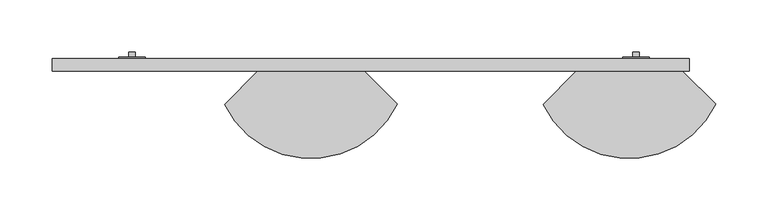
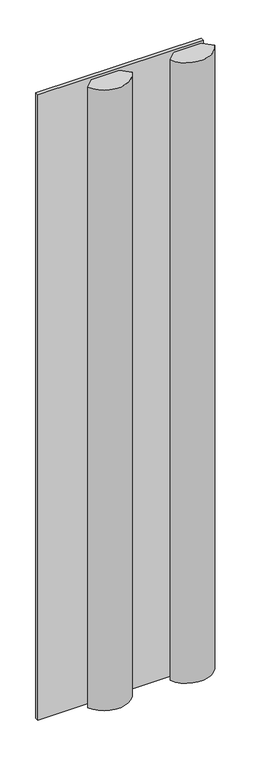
"""IFC4 building model written with IfcOpenShell, lengths in millimetres: proxy geometry, Arktura-SoundForm-Arc-RFA : Arktura-SoundForm-Arc-RFA."""

from ifc_helpers import new_model, si_unit, point, frame, frame_2d, origin, origin_with_axes, place, context, project, spatial, polyline, circle_curve, trimmed, segment, composite_curve, outline, extrude, source, transform, mapped, element, save


def generic_models_afdf253b(model_context):
    return source(origin(), model_context, "Body", "SweptSolid", [
        extrude(outline(polyline([(76.2, -31.75), (50.8, -31.75), (50.8, -30.3215536), (76.2, -30.3215536), (76.2, -31.75)])), frame((0.0, 0.0, 1206.5), z_axis=(0.0, 0.0, 1.0), x_axis=(1.0, 0.0, 0.0)), (0.0, 0.0, 1.0), 25.4),
        extrude(outline(composite_curve([segment(trimmed(circle_curve(frame_2d((1219.2, 63.5)), 3.175), [point((1219.2, 60.325))], [point((1219.2, 66.675))], False, "CARTESIAN"), True, "CONTINUOUS"), segment(trimmed(circle_curve(frame_2d((1219.2, 63.5)), 3.175), [point((1219.2, 66.675))], [point((1219.2, 60.325))], False, "CARTESIAN"), True, "CONTINUOUS")], self_intersect=False)), frame((0.0, -30.3215536, 0.0), z_axis=(0.0, 1.0, 0.0), x_axis=(0.0, 0.0, 1.0)), (0.0, 0.0, 1.0), 4.9215536),
        extrude(outline(polyline([(558.8, -31.75), (533.4, -31.75), (533.4, -30.3215536), (558.8, -30.3215536), (558.8, -31.75)])), frame((0.0, 0.0, 1206.5), z_axis=(0.0, 0.0, 1.0), x_axis=(1.0, 0.0, 0.0)), (0.0, 0.0, 1.0), 25.4),
        extrude(outline(composite_curve([segment(trimmed(circle_curve(frame_2d((1219.2, 546.1)), 3.175), [point((1219.2, 542.925))], [point((1219.2, 549.275))], False, "CARTESIAN"), True, "CONTINUOUS"), segment(trimmed(circle_curve(frame_2d((1219.2, 546.1)), 3.175), [point((1219.2, 549.275))], [point((1219.2, 542.925))], False, "CARTESIAN"), True, "CONTINUOUS")], self_intersect=False)), frame((0.0, -30.3215536, 0.0), z_axis=(0.0, 1.0, 0.0), x_axis=(0.0, 0.0, 1.0)), (0.0, 0.0, 1.0), 4.9215536),
        extrude(outline(polyline([(76.2, -31.75), (50.8, -31.75), (50.8, -30.3215536), (76.2, -30.3215536), (76.2, -31.75)])), frame((0.0, 0.0, 2352.675), z_axis=(0.0, 0.0, 1.0), x_axis=(1.0, 0.0, 0.0)), (0.0, 0.0, 1.0), 25.4),
        extrude(outline(composite_curve([segment(trimmed(circle_curve(frame_2d((2365.375, 63.5)), 3.175), [point((2365.375, 60.325))], [point((2365.375, 66.675))], False, "CARTESIAN"), True, "CONTINUOUS"), segment(trimmed(circle_curve(frame_2d((2365.375, 63.5)), 3.175), [point((2365.375, 66.675))], [point((2365.375, 60.325))], False, "CARTESIAN"), True, "CONTINUOUS")], self_intersect=False)), frame((0.0, -30.3215536, 0.0), z_axis=(0.0, 1.0, 0.0), x_axis=(0.0, 0.0, 1.0)), (0.0, 0.0, 1.0), 4.9215536),
        extrude(outline(polyline([(558.8, -31.75), (533.4, -31.75), (533.4, -30.3215536), (558.8, -30.3215536), (558.8, -31.75)])), frame((0.0, 0.0, 2352.675), z_axis=(0.0, 0.0, 1.0), x_axis=(1.0, 0.0, 0.0)), (0.0, 0.0, 1.0), 25.4),
        extrude(outline(composite_curve([segment(trimmed(circle_curve(frame_2d((2365.375, 546.1)), 3.175), [point((2365.375, 542.925))], [point((2365.375, 549.275))], False, "CARTESIAN"), True, "CONTINUOUS"), segment(trimmed(circle_curve(frame_2d((2365.375, 546.1)), 3.175), [point((2365.375, 549.275))], [point((2365.375, 542.925))], False, "CARTESIAN"), True, "CONTINUOUS")], self_intersect=False)), frame((0.0, -30.3215536, 0.0), z_axis=(0.0, 1.0, 0.0), x_axis=(0.0, 0.0, 1.0)), (0.0, 0.0, 1.0), 4.9215536),
        extrude(outline(polyline([(558.8, -31.75), (533.4, -31.75), (533.4, -30.3215536), (558.8, -30.3215536), (558.8, -31.75)])), frame((0.0, 0.0, 60.325), z_axis=(0.0, 0.0, 1.0), x_axis=(1.0, 0.0, 0.0)), (0.0, 0.0, 1.0), 25.4),
        extrude(outline(composite_curve([segment(trimmed(circle_curve(frame_2d((73.025, 546.1)), 3.175), [point((73.025, 542.925))], [point((73.025, 549.275))], False, "CARTESIAN"), True, "CONTINUOUS"), segment(trimmed(circle_curve(frame_2d((73.025, 546.1)), 3.175), [point((73.025, 549.275))], [point((73.025, 542.925))], False, "CARTESIAN"), True, "CONTINUOUS")], self_intersect=False)), frame((0.0, -30.3215536, 0.0), z_axis=(0.0, 1.0, 0.0), x_axis=(0.0, 0.0, 1.0)), (0.0, 0.0, 1.0), 4.9215536),
        extrude(outline(polyline([(76.2, -31.75), (50.8, -31.75), (50.8, -30.3215536), (76.2, -30.3215536), (76.2, -31.75)])), frame((0.0, 0.0, 60.325), z_axis=(0.0, 0.0, 1.0), x_axis=(1.0, 0.0, 0.0)), (0.0, 0.0, 1.0), 25.4),
        extrude(outline(composite_curve([segment(trimmed(circle_curve(frame_2d((73.025, 63.5)), 3.175), [point((73.025, 60.325))], [point((73.025, 66.675))], False, "CARTESIAN"), True, "CONTINUOUS"), segment(trimmed(circle_curve(frame_2d((73.025, 63.5)), 3.175), [point((73.025, 66.675))], [point((73.025, 60.325))], False, "CARTESIAN"), True, "CONTINUOUS")], self_intersect=False)), frame((0.0, -30.3215536, 0.0), z_axis=(0.0, 1.0, 0.0), x_axis=(0.0, 0.0, 1.0)), (0.0, 0.0, 1.0), 4.9215536),
        extrude(outline(polyline([(-12.7, -43.749976), (-12.7, -31.75), (596.9, -31.75), (596.9, -43.749976), (-12.7, -43.749976)])), origin_with_axes(), (0.0, 0.0, 1.0), 2438.4),
        extrude(outline(composite_curve([segment(polyline([(539.75, -43.7499999), (590.5500179, -43.7499999), (622.4852586, -75.1103039)]), True, "CONTINUOUS"), segment(trimmed(circle_curve(frame_2d((539.75, -36.0156362)), 91.5069181), [point((622.4852586, -75.1103039))], [point((457.2, -75.499982))], False, "CARTESIAN"), True, "CONTINUOUS"), segment(polyline([(457.2, -75.499982), (488.9499821, -43.7499999), (539.75, -43.7499999)]), True, "CONTINUOUS")], self_intersect=False)), frame((0.0, 0.0, 9.525), z_axis=(0.0, 0.0, 1.0), x_axis=(1.0, 0.0, 0.0)), (0.0, 0.0, 1.0), 2419.35),
        extrude(outline(composite_curve([segment(polyline([(234.95, -43.7499999), (285.7500179, -43.7499999), (317.6852586, -75.1103039)]), True, "CONTINUOUS"), segment(trimmed(circle_curve(frame_2d((234.95, -36.0156362)), 91.5069181), [point((317.6852586, -75.1103039))], [point((152.4, -75.499982))], False, "CARTESIAN"), True, "CONTINUOUS"), segment(polyline([(152.4, -75.499982), (184.1499821, -43.7499999), (234.95, -43.7499999)]), True, "CONTINUOUS")], self_intersect=False)), frame((0.0, 0.0, 9.525), z_axis=(0.0, 0.0, 1.0), x_axis=(1.0, 0.0, 0.0)), (0.0, 0.0, 1.0), 2419.35),
    ])


if __name__ == "__main__":
    model = new_model("IFC4")
    model_context = context("Model", 3, world=origin())
    ifc_project = project(units=[si_unit("LENGTHUNIT", "METRE", prefix="MILLI")], contexts=[model_context])
    site = spatial("IfcSite", under=ifc_project)
    building = spatial("IfcBuilding", under=site)
    placement = place(None, origin())
    generic_models_shape = generic_models_afdf253b(model_context)
    element("IfcBuildingElementProxy", 1, Name="Arktura-SoundForm-Arc-RFA : Arktura-SoundForm-Arc-RFA", ObjectType="Arktura-SoundForm-Arc-RFA : Arktura-SoundForm-Arc-RFA", at=placement, inside=building, context=model_context, shape_type="MappedRepresentation", body=[
        mapped(generic_models_shape, transform((0.0, 0.0, 0.0), x_axis=(1.0, 0.0, 0.0), y_axis=(0.0, 1.0, 0.0), z_axis=(0.0, 0.0, 1.0))),
    ])
    save(model, "model.ifc")
